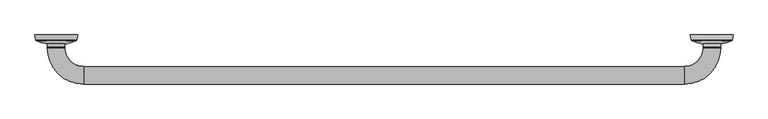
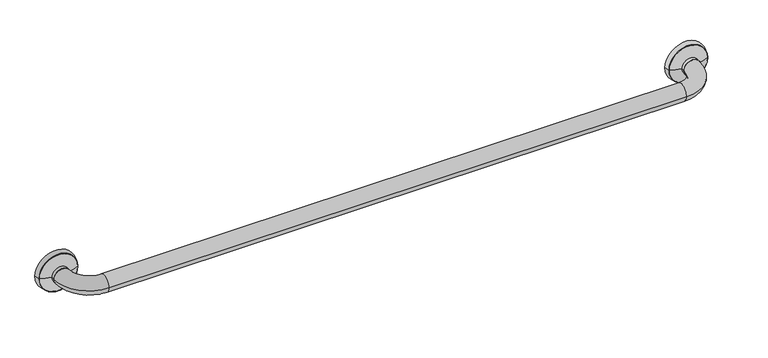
"""IFC4 building model written with IfcOpenShell, lengths in millimetres: proxy geometry, Grab Rail_Metlam_Straight_Horizontal : 1232long x 90d x 32h (ML335SS)."""

from ifc_helpers import new_model, si_unit, point, frame, origin, place, context, project, spatial, polyline, circle_curve, ellipse_curve, trimmed, source, transform, mapped, element, save
from ifc_brep_helpers import plane_surface, cylinder_surface, revolved_surface, advanced_brep


def specialty_equipment_a2c242b3(model_context):
    return source(origin(), model_context, "Body", "AdvancedBrep", [
        advanced_brep(
        [(89.0, -58.0, 784.0), (55.0, -24.0, 784.0), (23.0, -24.0, 784.0), (89.0, -90.0, 784.0), (1189.0, -90.0, 784.0), (1189.0, -58.0, 784.0), (1255.0, -24.0, 784.0), (1223.0, -24.0, 784.0), (55.0, -23.0, 784.0), (23.0, -23.0, 784.0), (1255.0, -23.0, 784.0), (1223.0, -23.0, 784.0), (0.0, 0.0, 784.0), (78.0, 0.0, 784.0), (76.1870729, -9.0646354, 784.0), (1.8129271, -9.0646354, 784.0), (2.8615925, -10.4521085, 784.0), (75.1384075, -10.4521085, 784.0), (55.0, -16.0065539, 784.0), (23.0, -16.0065539, 784.0), (39.0, 0.0, 784.0), (1278.0, 0.0, 784.0), (1200.0, 0.0, 784.0), (1239.0, 0.0, 784.0), (1276.1870729, -9.0646354, 784.0), (1201.8129271, -9.0646354, 784.0), (1255.0, -16.0065539, 784.0), (1223.0, -16.0065539, 784.0), (1202.8615925, -10.4521085, 784.0), (1275.1384075, -10.4521085, 784.0)],
        [
            (0, 1, circle_curve(frame((89.0, -24.0, 784.0), z_axis=(0.0, 0.0, -1.0), x_axis=(-1.0, 0.0, 0.0)), 34.0)),
            (1, 2, circle_curve(frame((39.0, -24.0, 784.0), z_axis=(0.0, -1.0, 0.0), x_axis=(1.0, 0.0, 0.0)), 16.0)),
            (2, 3, circle_curve(frame((89.0, -24.0, 784.0), z_axis=(0.0, 0.0, 1.0), x_axis=(-1.0, 0.0, 0.0)), 66.0)),
            (3, 0, circle_curve(frame((89.0, -74.0, 784.0), z_axis=(-1.0, 1.825290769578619e-12, 0.0), x_axis=(1.825290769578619e-12, 1.0, 0.0)), 16.0)),
            (0, 3, circle_curve(frame((89.0, -74.0, 784.0), z_axis=(-1.0, 3.5350342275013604e-12, 0.0), x_axis=(3.5350342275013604e-12, 1.0, 0.0)), 16.0)),
            (2, 1, circle_curve(frame((39.0, -24.0, 784.0), z_axis=(0.0, -1.0, 0.0), x_axis=(1.0, 0.0, 0.0)), 16.0)),
            (3, 4),
            (4, 5, circle_curve(frame((1189.0, -74.0, 784.0), z_axis=(-1.0, 0.0, 0.0), x_axis=(0.0, 1.0, 0.0)), 16.0)),
            (5, 0),
            (5, 4, circle_curve(frame((1189.0, -74.0, 784.0), z_axis=(-1.0, 0.0, 0.0), x_axis=(0.0, 1.0, 0.0)), 16.0)),
            (4, 6, circle_curve(frame((1189.0, -24.0, 784.0), z_axis=(0.0, 0.0, 1.0), x_axis=(0.0, -1.0, 0.0)), 66.0)),
            (6, 7, circle_curve(frame((1239.0, -24.0, 784.0), z_axis=(0.0, -1.0, 0.0), x_axis=(-1.0, 0.0, 0.0)), 16.0)),
            (7, 5, circle_curve(frame((1189.0, -24.0, 784.0), z_axis=(0.0, 0.0, -1.0), x_axis=(0.0, -1.0, 0.0)), 34.0)),
            (7, 6, circle_curve(frame((1239.0, -24.0, 784.0), z_axis=(0.0, -1.0, 0.0), x_axis=(-1.0, 0.0, 0.0)), 16.0)),
            (1, 8),
            (8, 9, circle_curve(frame((39.0, -23.0, 784.0), z_axis=(0.0, -1.0, 0.0), x_axis=(1.0, 0.0, 0.0)), 16.0)),
            (9, 2),
            (9, 8, circle_curve(frame((39.0, -23.0, 784.0), z_axis=(0.0, -1.0, 0.0), x_axis=(1.0, 0.0, 0.0)), 16.0)),
            (6, 10),
            (10, 11, circle_curve(frame((1239.0, -23.0, 784.0), z_axis=(0.0, -1.0, 0.0), x_axis=(-1.0, 0.0, 0.0)), 16.0)),
            (11, 7),
            (11, 10, circle_curve(frame((1239.0, -23.0, 784.0), z_axis=(0.0, -1.0, 0.0), x_axis=(-1.0, 0.0, 0.0)), 16.0)),
            (12, 13, circle_curve(frame((39.0, 0.0, 784.0), z_axis=(0.0, -1.0, 0.0), x_axis=(1.0, 0.0, 0.0)), 39.0)),
            (13, 14),
            (14, 15, circle_curve(frame((39.0, -9.0646354, 784.0), z_axis=(0.0, 1.0, 0.0), x_axis=(1.0, 0.0, 0.0)), 37.1870729)),
            (15, 12),
            (13, 12, circle_curve(frame((39.0, 0.0, 784.0), z_axis=(0.0, -1.0, 0.0), x_axis=(1.0, 0.0, 0.0)), 39.0)),
            (15, 14, circle_curve(frame((39.0, -9.0646354, 784.0), z_axis=(0.0, 1.0, 0.0), x_axis=(1.0, 0.0, 0.0)), 37.1870729)),
            (16, 17, circle_curve(frame((39.0, -10.4521085, 784.0), z_axis=(0.0, -1.0, 0.0), x_axis=(1.0, 0.0, 0.0)), 36.1384075)),
            (17, 18, circle_curve(frame((51.6887092, 35.2834961, 784.0), z_axis=(0.0, 0.0, -1.0), x_axis=(-1.0, 0.0, 0.0)), 51.3968275)),
            (18, 19, circle_curve(frame((39.0, -16.0065539, 784.0), z_axis=(0.0, 1.0, 0.0), x_axis=(1.0, 0.0, 0.0)), 16.0)),
            (19, 16, circle_curve(frame((26.3112908, 35.2834961, 784.0), z_axis=(0.0, 0.0, -1.0), x_axis=(1.0, 0.0, 0.0)), 51.3968275)),
            (17, 16, circle_curve(frame((39.0, -10.4521085, 784.0), z_axis=(0.0, -1.0, 0.0), x_axis=(1.0, 0.0, 0.0)), 36.1384075)),
            (19, 18, circle_curve(frame((39.0, -16.0065539, 784.0), z_axis=(0.0, 1.0, 0.0), x_axis=(1.0, 0.0, 0.0)), 16.0)),
            (18, 8),
            (9, 19),
            (12, 20),
            (20, 13),
            (14, 17, circle_curve(frame((74.2259116, -8.6724031, 784.0), z_axis=(0.0, 0.0, -1.0), x_axis=(-1.0, 0.0, 0.0)), 2.0)),
            (16, 15, circle_curve(frame((3.7740884, -8.6724031, 784.0), z_axis=(0.0, 0.0, -1.0), x_axis=(1.0, 0.0, 0.0)), 2.0)),
            (21, 22, circle_curve(frame((1239.0, 0.0, 784.0), z_axis=(0.0, 1.0, 0.0), x_axis=(-1.0, 0.0, 0.0)), 39.0)),
            (22, 23),
            (23, 21),
            (22, 21, circle_curve(frame((1239.0, 0.0, 784.0), z_axis=(0.0, 1.0, 0.0), x_axis=(-1.0, 0.0, 0.0)), 39.0)),
            (21, 24),
            (24, 25, circle_curve(frame((1239.0, -9.0646354, 784.0), z_axis=(0.0, 1.0, 0.0), x_axis=(-1.0, 0.0, 0.0)), 37.1870729)),
            (25, 22),
            (25, 24, circle_curve(frame((1239.0, -9.0646354, 784.0), z_axis=(0.0, 1.0, 0.0), x_axis=(-1.0, 0.0, 0.0)), 37.1870729)),
            (26, 27, circle_curve(frame((1239.0, -16.0065539, 784.0), z_axis=(0.0, 1.0, 0.0), x_axis=(-1.0, 0.0, 0.0)), 16.0)),
            (27, 28, circle_curve(frame((1226.3112908, 35.2834961, 784.0), z_axis=(0.0, 0.0, -1.0), x_axis=(-1.0, 0.0, 0.0)), 51.3968275)),
            (28, 29, circle_curve(frame((1239.0, -10.4521085, 784.0), z_axis=(0.0, -1.0, 0.0), x_axis=(-1.0, 0.0, 0.0)), 36.1384075)),
            (29, 26, circle_curve(frame((1251.6887092, 35.2834961, 784.0), z_axis=(0.0, 0.0, -1.0), x_axis=(1.0, 0.0, 0.0)), 51.3968275)),
            (27, 26, circle_curve(frame((1239.0, -16.0065539, 784.0), z_axis=(0.0, 1.0, 0.0), x_axis=(-1.0, 0.0, 0.0)), 16.0)),
            (29, 28, circle_curve(frame((1239.0, -10.4521085, 784.0), z_axis=(0.0, -1.0, 0.0), x_axis=(-1.0, 0.0, 0.0)), 36.1384075)),
            (26, 10),
            (11, 27),
            (24, 29, circle_curve(frame((1274.2259116, -8.6724031, 784.0), z_axis=(0.0, 0.0, -1.0), x_axis=(1.0, 0.0, 0.0)), 2.0)),
            (28, 25, circle_curve(frame((1203.7740884, -8.6724031, 784.0), z_axis=(0.0, 0.0, -1.0), x_axis=(-1.0, 0.0, 0.0)), 2.0)),
        ],
        [
            revolved_surface(trimmed(ellipse_curve(frame((39.0, -24.0, 784.0), z_axis=(0.0, 1.0, 0.0), x_axis=(1.0, 0.0, 0.0)), 16.0, 16.0), [point((23.0, -24.0, 784.0))], [point((55.0, -24.0, 784.0))], True, "CARTESIAN"), (89.0, -24.0, 784.0), (0.0, 0.0, 1.0)),
            revolved_surface(trimmed(ellipse_curve(frame((39.0, -24.0, 784.0), z_axis=(0.0, 1.0, 0.0), x_axis=(1.0, 0.0, 0.0)), 16.0, 16.0), [point((55.0, -24.0, 784.0))], [point((23.0, -24.0, 784.0))], True, "CARTESIAN"), (89.0, -24.0, 784.0), (0.0, 0.0, 1.0)),
            cylinder_surface(frame((89.0, -74.0, 784.0), z_axis=(-1.0, 0.0, 0.0), x_axis=(0.0, 1.0, 0.0)), 16.0),
            revolved_surface(trimmed(ellipse_curve(frame((1189.0, -74.0, 784.0), z_axis=(-1.0, 0.0, 0.0), x_axis=(0.0, 1.0, 0.0)), 16.0, 16.0), [point((1189.0, -90.0, 784.0))], [point((1189.0, -58.0, 784.0))], True, "CARTESIAN"), (1189.0, -24.0, 784.0), (0.0, 0.0, 1.0)),
            revolved_surface(trimmed(ellipse_curve(frame((1189.0, -74.0, 784.0), z_axis=(-1.0, 0.0, 0.0), x_axis=(0.0, 1.0, 0.0)), 16.0, 16.0), [point((1189.0, -58.0, 784.0))], [point((1189.0, -90.0, 784.0))], True, "CARTESIAN"), (1189.0, -24.0, 784.0), (0.0, 0.0, 1.0)),
            cylinder_surface(frame((39.0, -23.0, 784.0), z_axis=(0.0, 1.0, 0.0), x_axis=(1.0, 0.0, 0.0)), 16.0),
            cylinder_surface(frame((1239.0, -24.0, 784.0), z_axis=(0.0, -1.0, 0.0), x_axis=(-1.0, 0.0, 0.0)), 16.0),
            revolved_surface(polyline([(76.1870729, -9.0646354, 784.0), (78.0, 0.0, 784.0)]), (39.0, -10.0, 784.0), (0.0, 1.0, 0.0)),
            revolved_surface(trimmed(ellipse_curve(frame((51.6887092, 35.2834961, 784.0), z_axis=(0.0, 0.0, 1.0), x_axis=(-1.0, 0.0, 0.0)), 51.3968275, 51.3968275), [point((55.0, -16.0065539, 784.0))], [point((75.1384075, -10.4521085, 784.0))], True, "CARTESIAN"), (39.0, -10.0, 784.0), (0.0, 1.0, 0.0)),
            cylinder_surface(frame((39.0, -10.0, 784.0), z_axis=(0.0, 1.0, 0.0), x_axis=(1.0, 0.0, 0.0)), 16.0),
            plane_surface(frame((39.0, 0.0, 784.0), z_axis=(0.0, 1.0, 0.0), x_axis=(1.0, 0.0, 0.0))),
            revolved_surface(trimmed(ellipse_curve(frame((74.2259116, -8.6724031, 784.0), z_axis=(0.0, 0.0, 1.0), x_axis=(-1.0, 0.0, 0.0)), 2.0, 2.0), [point((75.1384075, -10.4521085, 784.0))], [point((76.1870729, -9.0646354, 784.0))], True, "CARTESIAN"), (39.0, -10.0, 784.0), (0.0, 1.0, 0.0)),
            plane_surface(frame((1239.0, 0.0, 784.0), z_axis=(0.0, 1.0, 0.0), x_axis=(-1.0, 0.0, 0.0))),
            revolved_surface(polyline([(1200.0, 0.0, 784.0), (1201.8129271, -9.0646354, 784.0)]), (1239.0, -10.0, 784.0), (0.0, -1.0, 0.0)),
            revolved_surface(trimmed(ellipse_curve(frame((1226.3112908, 35.2834961, 784.0), z_axis=(0.0, 0.0, 1.0), x_axis=(-1.0, 0.0, 0.0)), 51.3968275, 51.3968275), [point((1202.8615925, -10.4521085, 784.0))], [point((1223.0, -16.0065539, 784.0))], True, "CARTESIAN"), (1239.0, -10.0, 784.0), (0.0, -1.0, 0.0)),
            cylinder_surface(frame((1239.0, -10.0, 784.0), z_axis=(0.0, -1.0, 0.0), x_axis=(-1.0, 0.0, 0.0)), 16.0),
            revolved_surface(trimmed(ellipse_curve(frame((1203.7740884, -8.6724031, 784.0), z_axis=(0.0, 0.0, 1.0), x_axis=(-1.0, 0.0, 0.0)), 2.0, 2.0), [point((1201.8129271, -9.0646354, 784.0))], [point((1202.8615925, -10.4521085, 784.0))], True, "CARTESIAN"), (1239.0, -10.0, 784.0), (0.0, -1.0, 0.0)),
        ],
        [
            (0, [[1, 2, 3, 4]]),
            (1, [[-1, 5, -3, 6]]),
            (2, [[-4, 7, 8, 9]]),
            (2, [[-5, -9, 10, -7]]),
            (3, [[-8, 11, 12, 13]]),
            (4, [[-10, -13, 14, -11]]),
            (5, [[-2, 15, 16, 17]]),
            (5, [[-6, -17, 18, -15]]),
            (6, [[-12, 19, 20, 21]]),
            (6, [[-14, -21, 22, -19]]),
            (7, [[23, 24, 25, 26]]),
            (7, [[-24, 27, -26, 28]]),
            (8, [[29, 30, 31, 32]]),
            (8, [[-30, 33, -32, 34]]),
            (9, [[-31, 35, -18, 36]]),
            (9, [[-34, -36, -16, -35]]),
            (10, [[-23, 37, 38]]),
            (10, [[-27, -38, -37]]),
            (11, [[-25, 39, -29, 40]]),
            (11, [[-28, -40, -33, -39]]),
            (12, [[41, 42, 43]]),
            (12, [[-42, 44, -43]]),
            (13, [[-41, 45, 46, 47]]),
            (13, [[-44, -47, 48, -45]]),
            (14, [[49, 50, 51, 52]]),
            (14, [[-50, 53, -52, 54]]),
            (15, [[-49, 55, -22, 56]]),
            (15, [[-53, -56, -20, -55]]),
            (16, [[-46, 57, -51, 58]]),
            (16, [[-48, -58, -54, -57]]),
        ],
    ),
    ])


if __name__ == "__main__":
    model = new_model("IFC4")
    model_context = context("Model", 3, world=origin())
    ifc_project = project(units=[si_unit("LENGTHUNIT", "METRE", prefix="MILLI")], contexts=[model_context])
    site = spatial("IfcSite", under=ifc_project)
    building = spatial("IfcBuilding", under=site)
    placement = place(None, origin())
    specialty_equipment_shape = specialty_equipment_a2c242b3(model_context)
    element("IfcBuildingElementProxy", 1, Name="Grab Rail_Metlam_Straight_Horizontal : 1232long x 90d x 32h (ML335SS)", ObjectType="Grab Rail_Metlam_Straight_Horizontal : 1232long x 90d x 32h (ML335SS)", at=placement, inside=building, context=model_context, shape_type="MappedRepresentation", body=[
        mapped(specialty_equipment_shape, transform((0.0, 0.0, 0.0), x_axis=(1.0, 0.0, 0.0), y_axis=(0.0, 1.0, 0.0), z_axis=(0.0, 0.0, 1.0))),
    ])
    save(model, "model.ifc")
